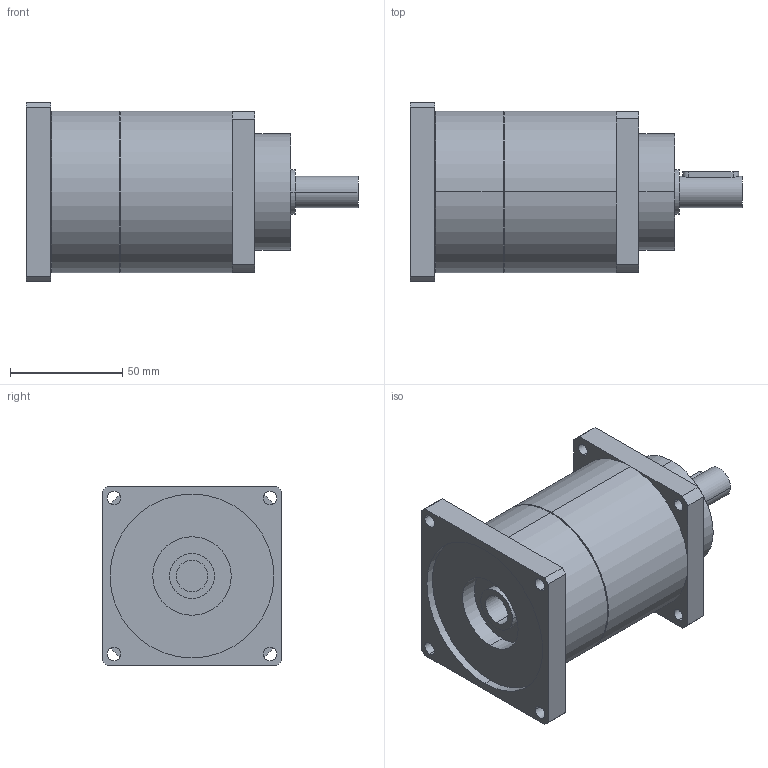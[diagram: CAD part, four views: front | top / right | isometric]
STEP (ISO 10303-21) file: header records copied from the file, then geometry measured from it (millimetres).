
FILE_DESCRIPTION(('CoCreate Modeling STEP Export'),'2;1');
FILE_NAME('GPT75_ig-9-12-16-20-25-28-35-40-50-70-100_14_B5T_14_P06.stp','2014-08-27T13:37:44',(''),(''),'CoCreate Modeling STEP processor for AP214 (Solid Model)','CoCreate Modeling 16.00C 25-Feb-2009 (C) Parametric Technology GmbH','');
FILE_SCHEMA(('AUTOMOTIVE_DESIGN { 1 0 10303 214 1 1 1 1 }'));
Length unit declared in the file: millimetre
Products named in the file (2): GPT75_ig-9-12-16-20-25-28-35-40-50-70-100_14_B5T_14_P06
Assembly tree (1 placements, depth 2):
  GPT75_ig-9-12-16-20-25-28-35-40-50-70-100_14_B5T_14_P06
    GPT75_ig-9-12-16-20-25-28-35-40-50-70-100_14_B5T_14_P06
Bounding box: 148 x 80 x 80 mm (x, y, z)
Volume: 462675.1 mm3; surface area: 48505.3 mm2
Topology: 1 solids, 1 shells, 77 faces, 194 edges, 129 vertices
Faces by surface type: cylinder 46, plane 27, cone 4
Entity records: 2484 total; most frequent: CARTESIAN_POINT 719, ORIENTED_EDGE 388, DIRECTION 320, EDGE_CURVE 194, VERTEX_POINT 129, AXIS2_PLACEMENT_3D 118, EDGE_LOOP 103, VECTOR 84
